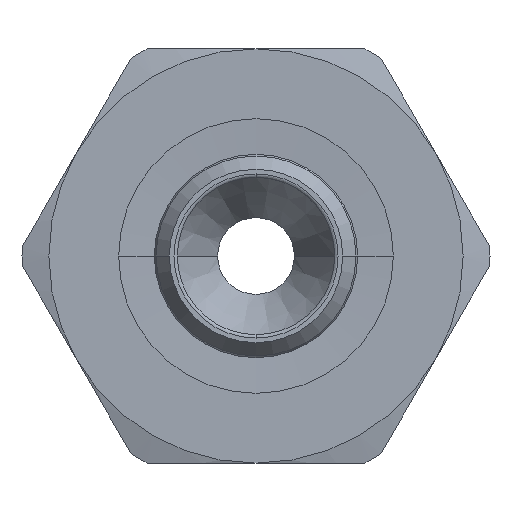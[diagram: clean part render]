
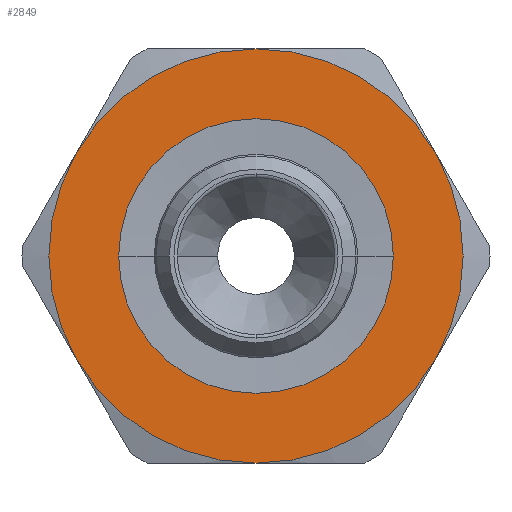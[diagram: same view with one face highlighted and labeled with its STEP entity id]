
A CAD part, left-side view. The second image highlights one B-rep face of the part: STEP entity #2849.
In plain terms, the highlighted planar face has unit normal (-1, 0, 0) as drawn and (0, 0, 1) by its records, which use the part's own axes.
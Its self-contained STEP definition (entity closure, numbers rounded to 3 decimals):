
#1176=CARTESIAN_POINT('',(0.,-8.95,3.5));
#1177=VERTEX_POINT('',#1176);
#1193=CARTESIAN_POINT('',(0.,8.95,3.5));
#1194=VERTEX_POINT('',#1193);
#1201=CARTESIAN_POINT('',(0.,0.,3.5));
#1202=DIRECTION('',(0.0,0.0,-1.0));
#1203=DIRECTION('',(0.0,-1.0,0.0));
#1204=AXIS2_PLACEMENT_3D('',#1201,#1202,#1203);
#1205=CIRCLE('',#1204,8.95);
#1206=EDGE_CURVE('',#1177,#1194,#1205,.T.);
#1663=CARTESIAN_POINT('',(0.,0.,3.5));
#1664=DIRECTION('',(0.0,0.0,-1.0));
#1665=DIRECTION('',(0.0,-1.0,0.0));
#1666=AXIS2_PLACEMENT_3D('',#1663,#1664,#1665);
#1667=CIRCLE('',#1666,8.95);
#1668=EDGE_CURVE('',#1194,#1177,#1667,.T.);
#2222=CARTESIAN_POINT('',(6.75,-11.691,3.5));
#2223=VERTEX_POINT('',#2222);
#2237=CARTESIAN_POINT('',(-6.75,-11.691,3.5));
#2238=VERTEX_POINT('',#2237);
#2239=CARTESIAN_POINT('',(0.,0.0,3.5));
#2240=DIRECTION('',(0.0,0.0,1.0));
#2241=DIRECTION('',(1.0,0.0,0.0));
#2242=AXIS2_PLACEMENT_3D('',#2239,#2240,#2241);
#2243=CIRCLE('',#2242,13.5);
#2244=EDGE_CURVE('',#2238,#2223,#2243,.T.);
#2322=CARTESIAN_POINT('',(-13.5,0.,3.5));
#2323=VERTEX_POINT('',#2322);
#2324=CARTESIAN_POINT('',(0.,0.0,3.5));
#2325=DIRECTION('',(0.0,0.0,1.0));
#2326=DIRECTION('',(1.0,0.0,0.0));
#2327=AXIS2_PLACEMENT_3D('',#2324,#2325,#2326);
#2328=CIRCLE('',#2327,13.5);
#2329=EDGE_CURVE('',#2323,#2238,#2328,.T.);
#2406=CARTESIAN_POINT('',(-6.75,11.691,3.5));
#2407=VERTEX_POINT('',#2406);
#2408=CARTESIAN_POINT('',(0.,0.0,3.5));
#2409=DIRECTION('',(0.0,0.0,1.0));
#2410=DIRECTION('',(1.0,0.0,0.0));
#2411=AXIS2_PLACEMENT_3D('',#2408,#2409,#2410);
#2412=CIRCLE('',#2411,13.5);
#2413=EDGE_CURVE('',#2407,#2323,#2412,.T.);
#2490=CARTESIAN_POINT('',(6.75,11.691,3.5));
#2491=VERTEX_POINT('',#2490);
#2492=CARTESIAN_POINT('',(0.,0.0,3.5));
#2493=DIRECTION('',(0.0,0.0,1.0));
#2494=DIRECTION('',(1.0,0.0,0.0));
#2495=AXIS2_PLACEMENT_3D('',#2492,#2493,#2494);
#2496=CIRCLE('',#2495,13.5);
#2497=EDGE_CURVE('',#2491,#2407,#2496,.T.);
#2575=CARTESIAN_POINT('',(13.5,0.0,3.5));
#2576=VERTEX_POINT('',#2575);
#2577=CARTESIAN_POINT('',(0.,0.0,3.5));
#2578=DIRECTION('',(0.0,0.0,1.0));
#2579=DIRECTION('',(1.0,0.0,0.0));
#2580=AXIS2_PLACEMENT_3D('',#2577,#2578,#2579);
#2581=CIRCLE('',#2580,13.5);
#2582=EDGE_CURVE('',#2576,#2491,#2581,.T.);
#2659=CARTESIAN_POINT('',(0.,0.0,3.5));
#2660=DIRECTION('',(0.0,0.0,1.0));
#2661=DIRECTION('',(1.0,0.0,0.0));
#2662=AXIS2_PLACEMENT_3D('',#2659,#2660,#2661);
#2663=CIRCLE('',#2662,13.5);
#2664=EDGE_CURVE('',#2223,#2576,#2663,.T.);
#2832=CARTESIAN_POINT('',(0.,0.,3.5));
#2833=DIRECTION('',(0.0,0.0,1.0));
#2834=DIRECTION('',(1.0,0.0,0.0));
#2835=AXIS2_PLACEMENT_3D('',#2832,#2833,#2834);
#2836=PLANE('',#2835);
#2837=ORIENTED_EDGE('',*,*,#2664,.T.);
#2838=ORIENTED_EDGE('',*,*,#2582,.T.);
#2839=ORIENTED_EDGE('',*,*,#2497,.T.);
#2840=ORIENTED_EDGE('',*,*,#2413,.T.);
#2841=ORIENTED_EDGE('',*,*,#2329,.T.);
#2842=ORIENTED_EDGE('',*,*,#2244,.T.);
#2843=EDGE_LOOP('',(#2837,#2838,#2839,#2840,#2841,#2842));
#2844=FACE_OUTER_BOUND('',#2843,.T.);
#2845=ORIENTED_EDGE('',*,*,#1206,.T.);
#2846=ORIENTED_EDGE('',*,*,#1668,.T.);
#2847=EDGE_LOOP('',(#2845,#2846));
#2848=FACE_BOUND('',#2847,.T.);
#2849=ADVANCED_FACE('',(#2844,#2848),#2836,.T.);
